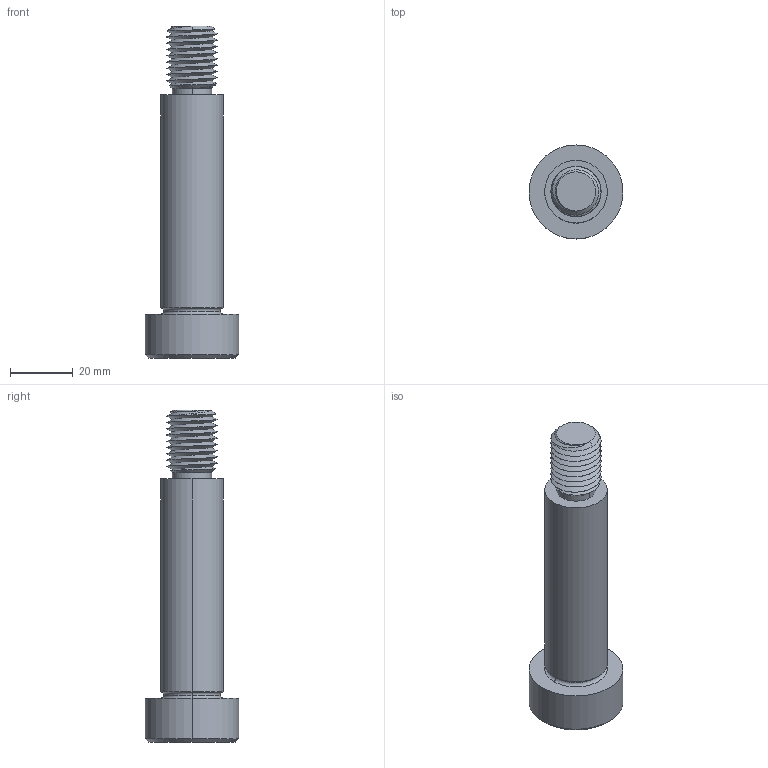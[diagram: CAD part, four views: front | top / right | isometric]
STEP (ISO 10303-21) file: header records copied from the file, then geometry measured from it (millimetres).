
FILE_DESCRIPTION (( 'STEP AP203' ), '1' );
FILE_NAME ('P0130.200-070-B2.step', '2021-11-09T22:25:30', ( '' ), ( '' ), 'SwSTEP 2.0', 'SolidWorks 2019', '' );
FILE_SCHEMA (( 'CONFIG_CONTROL_DESIGN' ));
Length unit declared in the file: millimetre
Products named in the file (1): P0130.200-070-B2
Bounding box: 30 x 30 x 106 mm (x, y, z)
Volume: 34192.8 mm3; surface area: 9302.1 mm2
Topology: 1 solids, 1 shells, 60 faces, 142 edges, 85 vertices
Faces by surface type: cylinder 24, plane 16, cone 14, torus 4, bspline 2
Entity records: 5678 total; most frequent: CARTESIAN_POINT 4332, ORIENTED_EDGE 280, DIRECTION 247, EDGE_CURVE 140, AXIS2_PLACEMENT_3D 99, VERTEX_POINT 85, EDGE_LOOP 63, FACE_OUTER_BOUND 60
